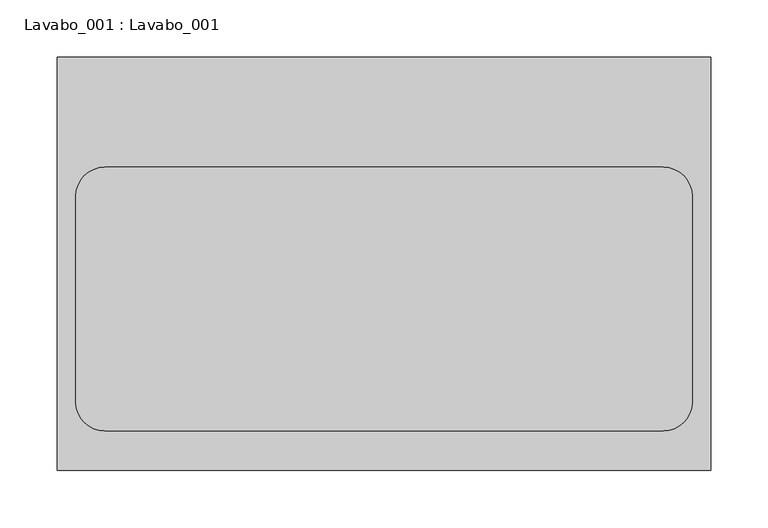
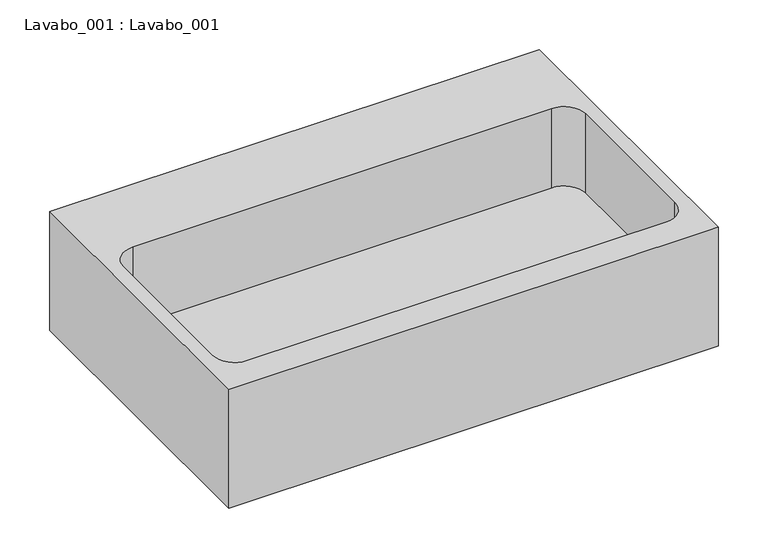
"""IFC4 building model written with IfcOpenShell, lengths in millimetres: flow terminal geometry, Lavabo_001 : Lavabo_001."""

from ifc_helpers import new_model, si_unit, frame, origin, place, context, project, spatial, polyline, circle_curve, source, transform, mapped, element, save
from ifc_brep_helpers import plane_surface, revolved_surface, advanced_brep


def lavabo_001_lavabo_001_02f3cc6c(model_context):
    return source(origin(), model_context, "Body", "AdvancedBrep", [
        advanced_brep(
        [(179.6616781, -185.7004481, 1386.516961), (179.6616781, 174.2995519, 1386.516961), (-389.0614998, 174.2995519, 1386.516961), (-389.0614998, -185.7004481, 1386.516961), (-347.964768, 78.5472641, 1386.516961), (138.5649463, 78.5472641, 1386.516961), (163.5649463, 53.5472641, 1386.516961), (163.5649463, -126.2192236, 1386.516961), (138.5649463, -151.2192236, 1386.516961), (-347.964768, -151.2192236, 1386.516961), (-372.964768, -126.2192236, 1386.516961), (-372.964768, 53.5472641, 1386.516961), (179.6616781, -185.7004481, 1240.5438045), (-389.0614998, -185.7004481, 1240.5438045), (-389.0614998, 174.2995519, 1240.5438045), (179.6616781, 174.2995519, 1240.5438045), (-347.964768, 78.5472641, 1289.0019675), (-372.964768, 53.5472641, 1289.0019675), (-372.964768, -126.2192236, 1289.0019675), (-347.964768, -151.2192236, 1289.0019675), (138.5649463, -151.2192236, 1289.0019675), (163.5649463, -126.2192236, 1289.0019675), (163.5649463, 53.5472641, 1289.0019675), (138.5649463, 78.5472641, 1289.0019675)],
        [
            (0, 1),
            (1, 2),
            (2, 3),
            (3, 0),
            (4, 5),
            (5, 6, circle_curve(frame((138.5649463, 53.5472641, 1386.516961), z_axis=(0.0, 0.0, -1.0), x_axis=(1.0, 0.0, 0.0)), 25.0)),
            (6, 7),
            (7, 8, circle_curve(frame((138.5649463, -126.2192236, 1386.516961), z_axis=(0.0, 0.0, -1.0), x_axis=(1.0, 0.0, 0.0)), 25.0)),
            (8, 9),
            (9, 10, circle_curve(frame((-347.964768, -126.2192236, 1386.516961), z_axis=(0.0, 0.0, -1.0), x_axis=(-1.0, 0.0, 0.0)), 25.0)),
            (10, 11),
            (11, 4, circle_curve(frame((-347.964768, 53.5472641, 1386.516961), z_axis=(0.0, 0.0, -1.0), x_axis=(-1.0, 0.0, 0.0)), 25.0)),
            (12, 13),
            (13, 14),
            (14, 15),
            (15, 12),
            (3, 13),
            (12, 0),
            (2, 14),
            (1, 15),
            (16, 17, circle_curve(frame((-347.964768, 53.5472641, 1289.0019675), z_axis=(0.0, 0.0, 1.0), x_axis=(-1.0, 0.0, 0.0)), 25.0)),
            (17, 18),
            (18, 19, circle_curve(frame((-347.964768, -126.2192236, 1289.0019675), z_axis=(0.0, 0.0, 1.0), x_axis=(-1.0, 0.0, 0.0)), 25.0)),
            (19, 20),
            (20, 21, circle_curve(frame((138.5649463, -126.2192236, 1289.0019675), z_axis=(0.0, 0.0, 1.0), x_axis=(1.0, 0.0, 0.0)), 25.0)),
            (21, 22),
            (22, 23, circle_curve(frame((138.5649463, 53.5472641, 1289.0019675), z_axis=(0.0, 0.0, 1.0), x_axis=(1.0, 0.0, 0.0)), 25.0)),
            (23, 16),
            (16, 4),
            (11, 17),
            (10, 18),
            (9, 19),
            (8, 20),
            (7, 21),
            (6, 22),
            (5, 23),
        ],
        [
            plane_surface(frame((-319.1916049, -185.7004481, 1386.516961), z_axis=(0.0, 0.0, 1.0), x_axis=(-1.0, 0.0, 0.0))),
            plane_surface(frame((-319.1916049, -185.7004481, 1240.5438045), z_axis=(0.0, 0.0, -1.0), x_axis=(1.0, 0.0, 0.0))),
            plane_surface(frame((179.6616781, -185.7004481, 1386.516961), z_axis=(0.0, -1.0, 0.0), x_axis=(0.0, 0.0, -1.0))),
            plane_surface(frame((-389.0614998, -185.7004481, 1386.516961), z_axis=(-1.0, 0.0, 0.0), x_axis=(0.0, 0.0, -1.0))),
            plane_surface(frame((-389.0614998, 174.2995519, 1386.516961), z_axis=(0.0, 1.0, 0.0), x_axis=(0.0, 0.0, -1.0))),
            plane_surface(frame((179.6616781, 174.2995519, 1386.516961), z_axis=(1.0, 0.0, 0.0), x_axis=(0.0, 0.0, -1.0))),
            plane_surface(frame((-372.964768, 53.5472641, 1289.0019675), z_axis=(0.0, 0.0, 1.0), x_axis=(0.0, -1.0, 0.0))),
            revolved_surface(polyline([(-372.964768, 53.5472641, 1289.0019675), (-372.964768, 53.5472641, 1386.516961)]), (-347.964768, 53.5472641, 1386.516961), (0.0, 0.0, -1.0)),
            plane_surface(frame((-372.964768, 53.5472641, 1289.0019675), z_axis=(1.0, 0.0, 0.0), x_axis=(0.0, 0.0, 1.0))),
            revolved_surface(polyline([(-372.964768, -126.2192236, 1289.0019675), (-372.964768, -126.2192236, 1386.516961)]), (-347.964768, -126.2192236, 1386.516961), (0.0, 0.0, -1.0)),
            plane_surface(frame((-347.964768, -151.2192236, 1289.0019675), z_axis=(0.0, 1.0, 0.0), x_axis=(0.0, 0.0, 1.0))),
            revolved_surface(polyline([(163.5649463, -126.2192236, 1289.0019675), (163.5649463, -126.2192236, 1386.516961)]), (138.5649463, -126.2192236, 1386.516961), (0.0, 0.0, -1.0)),
            plane_surface(frame((163.5649463, -126.2192236, 1289.0019675), z_axis=(-1.0, 0.0, 0.0), x_axis=(0.0, 0.0, 1.0))),
            revolved_surface(polyline([(163.5649463, 53.5472641, 1289.0019675), (163.5649463, 53.5472641, 1386.516961)]), (138.5649463, 53.5472641, 1386.516961), (0.0, 0.0, -1.0)),
            plane_surface(frame((138.5649463, 78.5472641, 1289.0019675), z_axis=(0.0, -1.0, 0.0), x_axis=(0.0, 0.0, 1.0))),
        ],
        [
            (0, [[1, 2, 3, 4], [5, 6, 7, 8, 9, 10, 11, 12]]),
            (1, [[13, 14, 15, 16]]),
            (2, [[17, -13, 18, -4]]),
            (3, [[19, -14, -17, -3]]),
            (4, [[20, -15, -19, -2]]),
            (5, [[-18, -16, -20, -1]]),
            (6, [[21, 22, 23, 24, 25, 26, 27, 28]]),
            (7, [[29, -12, 30, -21]]),
            (8, [[-30, -11, 31, -22]]),
            (9, [[-31, -10, 32, -23]]),
            (10, [[-32, -9, 33, -24]]),
            (11, [[-33, -8, 34, -25]]),
            (12, [[-34, -7, 35, -26]]),
            (13, [[-35, -6, 36, -27]]),
            (14, [[-36, -5, -29, -28]]),
        ],
    ),
    ])


if __name__ == "__main__":
    model = new_model("IFC4")
    model_context = context("Model", 3, world=origin())
    ifc_project = project(units=[si_unit("LENGTHUNIT", "METRE", prefix="MILLI")], contexts=[model_context])
    site = spatial("IfcSite", under=ifc_project)
    building = spatial("IfcBuilding", under=site)
    placement = place(None, origin())
    lavabo_001_lavabo_001_shape = lavabo_001_lavabo_001_02f3cc6c(model_context)
    element("IfcFlowTerminal", 1, ObjectType="Lavabo_001 : Lavabo_001", at=placement, inside=building, context=model_context, shape_type="MappedRepresentation", body=[
        mapped(lavabo_001_lavabo_001_shape, transform((0.0, 0.0, 0.0), x_axis=(1.0, 0.0, 0.0), y_axis=(0.0, 1.0, 0.0), z_axis=(0.0, 0.0, 1.0))),
    ])
    save(model, "model.ifc")
